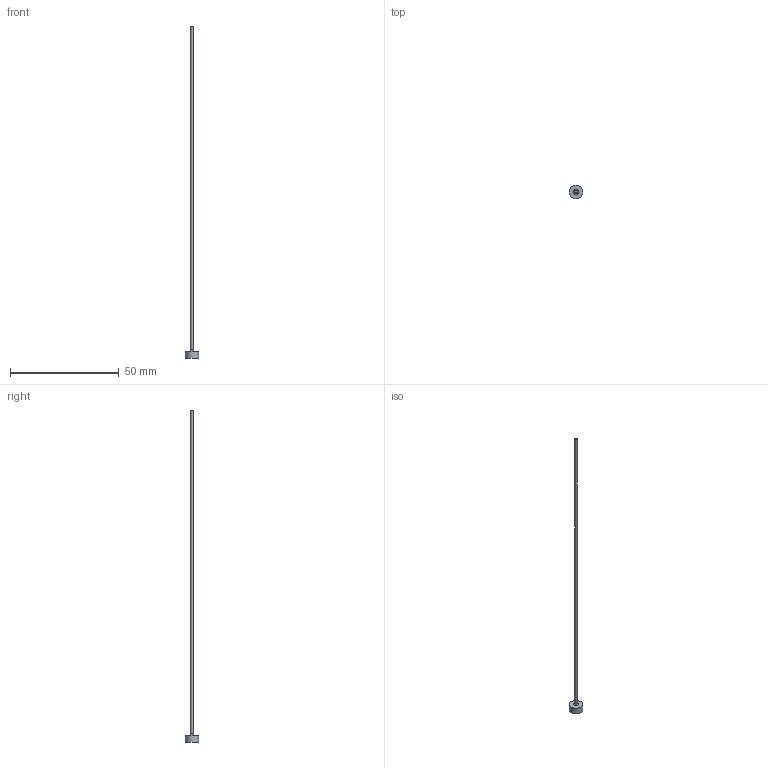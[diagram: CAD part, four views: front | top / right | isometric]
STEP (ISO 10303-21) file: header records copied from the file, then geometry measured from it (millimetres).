
FILE_DESCRIPTION (( 'STEP AP214' ), '1' );
FILE_NAME ('M2P-364-6.step', '2023-07-14T21:38:11', ( '' ), ( '' ), 'SwSTEP 2.0', 'SolidWorks 2017', '' );
FILE_SCHEMA (( 'AUTOMOTIVE_DESIGN' ));
Length unit declared in the file: inch
Products named in the file (1): M2P-364-6
Bounding box: 6.35 x 6.35 x 152.4 mm (x, y, z)
Volume: 267.1 mm3; surface area: 684.4 mm2
Topology: 1 solids, 1 shells, 6 faces, 8 edges, 5 vertices
Faces by surface type: plane 3, cylinder 2, torus 1
Full cylindrical faces by diameter (mm): 1.191 x1, 6.35 x1
Entity records: 154 total; most frequent: DIRECTION 24, CARTESIAN_POINT 17, AXIS2_PLACEMENT_3D 12, EDGE_LOOP 10, ORIENTED_EDGE 10, FACE_OUTER_BOUND 9, ADVANCED_FACE 6, CIRCLE 5
